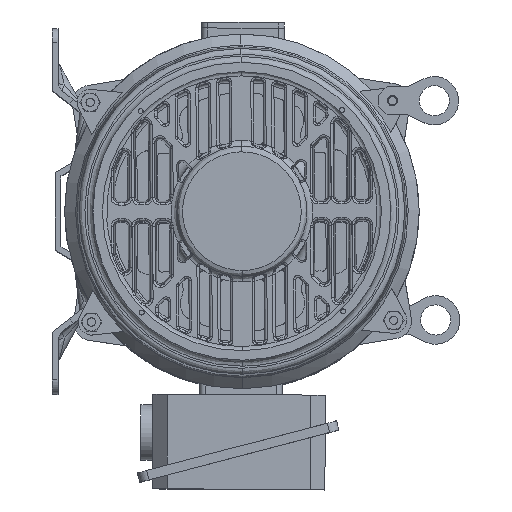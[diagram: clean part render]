
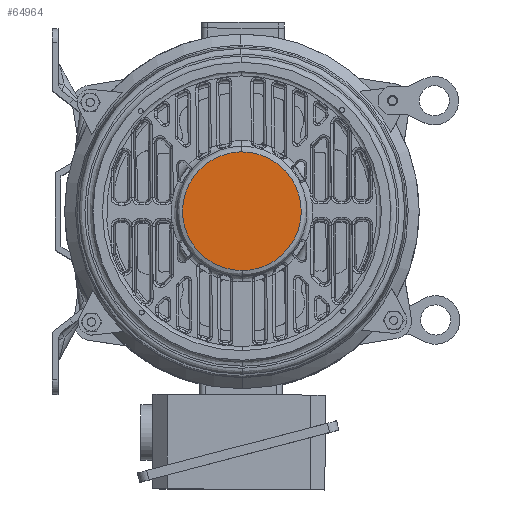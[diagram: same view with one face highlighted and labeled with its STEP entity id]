
A CAD part, top view. The second image highlights one B-rep face of the part: STEP entity #64964.
In plain terms, the highlighted planar face has unit normal (0, 0, 1).
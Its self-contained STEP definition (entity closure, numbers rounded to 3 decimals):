
#1575 = CARTESIAN_POINT ( 'NONE',  ( 178.993, 35.401, 251.358 ) ) ;
#8774 = CARTESIAN_POINT ( 'NONE',  ( 278.724, 136.301, 251.358 ) ) ;
#8987 = EDGE_LOOP ( 'NONE', ( #35996, #73325 ) ) ;
#9060 = AXIS2_PLACEMENT_3D ( 'NONE', #74770, #31242, #92437 ) ;
#9317 = FACE_OUTER_BOUND ( 'NONE', #8987, .T. ) ;
#13165 = PLANE ( 'NONE',  #9060 ) ;
#15200 =( BOUNDED_CURVE ( )  B_SPLINE_CURVE ( 3, ( #1575, #106061, #19028, #80007 ),
 .UNSPECIFIED., .F., .F. ) 
 B_SPLINE_CURVE_WITH_KNOTS ( ( 4, 4 ),
 ( 0., 1. ),
 .UNSPECIFIED. ) 
 CURVE ( )  GEOMETRIC_REPRESENTATION_ITEM ( )  RATIONAL_B_SPLINE_CURVE ( ( 1., 0.333, 0.333, 1. ) ) 
 REPRESENTATION_ITEM ( '' )  );
#17448 = CARTESIAN_POINT ( 'NONE',  ( 279.308, 35.985, 251.358 ) ) ;
#19028 = CARTESIAN_POINT ( 'NONE',  ( 78.092, 135.132, 251.358 ) ) ;
#24860 = VERTEX_POINT ( 'NONE', #52449 ) ;
#26654 = EDGE_CURVE ( 'NONE', #24860, #49024, #15200, .T. ) ;
#31242 = DIRECTION ( 'NONE',  ( 0., 0., 1. ) ) ;
#35996 = ORIENTED_EDGE ( 'NONE', *, *, #60727, .F. ) ;
#37245 =( BOUNDED_CURVE ( )  B_SPLINE_CURVE ( 3, ( #60797, #8774, #17448, #78378 ),
 .UNSPECIFIED., .F., .F. ) 
 B_SPLINE_CURVE_WITH_KNOTS ( ( 4, 4 ),
 ( 0., 1. ),
 .UNSPECIFIED. ) 
 CURVE ( )  GEOMETRIC_REPRESENTATION_ITEM ( )  RATIONAL_B_SPLINE_CURVE ( ( 1., 0.333, 0.333, 1. ) ) 
 REPRESENTATION_ITEM ( '' )  );
#49024 = VERTEX_POINT ( 'NONE', #74716 ) ;
#52449 = CARTESIAN_POINT ( 'NONE',  ( 178.993, 35.401, 251.358 ) ) ;
#60727 = EDGE_CURVE ( 'NONE', #49024, #24860, #37245, .T. ) ;
#60797 = CARTESIAN_POINT ( 'NONE',  ( 178.408, 135.716, 251.358 ) ) ;
#64964 = ADVANCED_FACE ( 'NONE', ( #9317 ), #13165, .T. ) ;
#73325 = ORIENTED_EDGE ( 'NONE', *, *, #26654, .F. ) ;
#74716 = CARTESIAN_POINT ( 'NONE',  ( 178.408, 135.716, 251.358 ) ) ;
#74770 = CARTESIAN_POINT ( 'NONE',  ( -47.145, 84.242, 251.358 ) ) ;
#78378 = CARTESIAN_POINT ( 'NONE',  ( 178.993, 35.401, 251.358 ) ) ;
#80007 = CARTESIAN_POINT ( 'NONE',  ( 178.408, 135.716, 251.358 ) ) ;
#92437 = DIRECTION ( 'NONE',  ( 0.006, -1., 0. ) ) ;
#106061 = CARTESIAN_POINT ( 'NONE',  ( 78.677, 34.816, 251.358 ) ) ;
